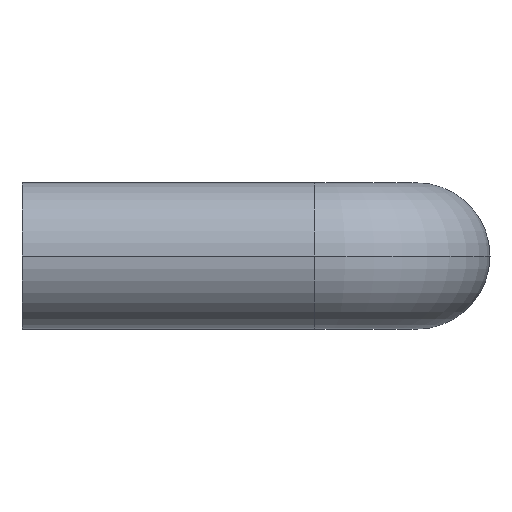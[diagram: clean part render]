
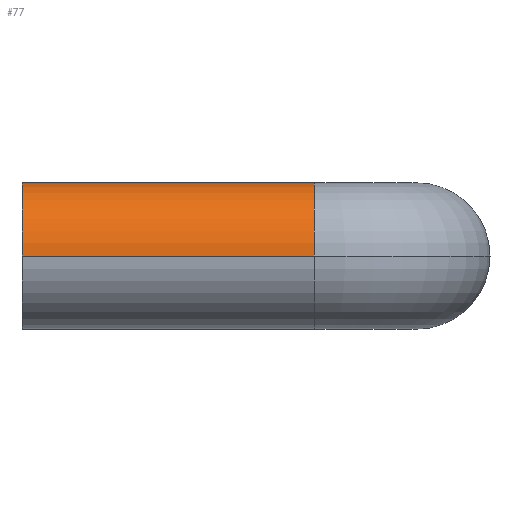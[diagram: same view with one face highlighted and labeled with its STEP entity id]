
A CAD part, left-side view. The second image highlights one B-rep face of the part: STEP entity #77.
In plain terms, the highlighted cylindrical face has radius 5 mm (diameter 10 mm), a partial arc.
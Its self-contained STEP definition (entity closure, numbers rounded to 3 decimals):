
#77 = ADVANCED_FACE( '', ( #98 ), #99, .T. );
#98 = FACE_OUTER_BOUND( '', #136, .T. );
#99 = CYLINDRICAL_SURFACE( '', #137, 5. );
#136 = EDGE_LOOP( '', ( #184, #185, #186, #187 ) );
#137 = AXIS2_PLACEMENT_3D( '', #188, #189, #190 );
#184 = ORIENTED_EDGE( '', *, *, #300, .F. );
#185 = ORIENTED_EDGE( '', *, *, #301, .F. );
#186 = ORIENTED_EDGE( '', *, *, #302, .F. );
#187 = ORIENTED_EDGE( '', *, *, #295, .T. );
#188 = CARTESIAN_POINT( '', ( 0., 0., 0. ) );
#189 = DIRECTION( '', ( 0., 1., 0. ) );
#190 = DIRECTION( '', ( 1., 0., 0. ) );
#295 = EDGE_CURVE( '', #327, #331, #333, .T. );
#300 = EDGE_CURVE( '', #342, #331, #343, .T. );
#301 = EDGE_CURVE( '', #344, #342, #345, .T. );
#302 = EDGE_CURVE( '', #327, #344, #346, .T. );
#327 = VERTEX_POINT( '', #381 );
#331 = VERTEX_POINT( '', #385 );
#333 = CIRCLE( '', #387, 5. );
#342 = VERTEX_POINT( '', #396 );
#343 = LINE( '', #397, #398 );
#344 = VERTEX_POINT( '', #399 );
#345 = CIRCLE( '', #400, 5. );
#346 = LINE( '', #401, #402 );
#381 = CARTESIAN_POINT( '', ( -5., -20., 0. ) );
#385 = CARTESIAN_POINT( '', ( 5., -20., 0. ) );
#387 = AXIS2_PLACEMENT_3D( '', #453, #454, #455 );
#396 = CARTESIAN_POINT( '', ( 5., 0., 0. ) );
#397 = CARTESIAN_POINT( '', ( 5., 0., 0. ) );
#398 = VECTOR( '', #468, 1. );
#399 = CARTESIAN_POINT( '', ( -5., 0., 0. ) );
#400 = AXIS2_PLACEMENT_3D( '', #469, #470, #471 );
#401 = CARTESIAN_POINT( '', ( -5., 0., 0. ) );
#402 = VECTOR( '', #472, 1. );
#453 = CARTESIAN_POINT( '', ( 0., -20., 0. ) );
#454 = DIRECTION( '', ( 0., 1., 0. ) );
#455 = DIRECTION( '', ( 1., 0., 0. ) );
#468 = DIRECTION( '', ( 0., -1., 0. ) );
#469 = CARTESIAN_POINT( '', ( 0., 0., 0. ) );
#470 = DIRECTION( '', ( 0., 1., 0. ) );
#471 = DIRECTION( '', ( 1., 0., 0. ) );
#472 = DIRECTION( '', ( 0., 1., 0. ) );
